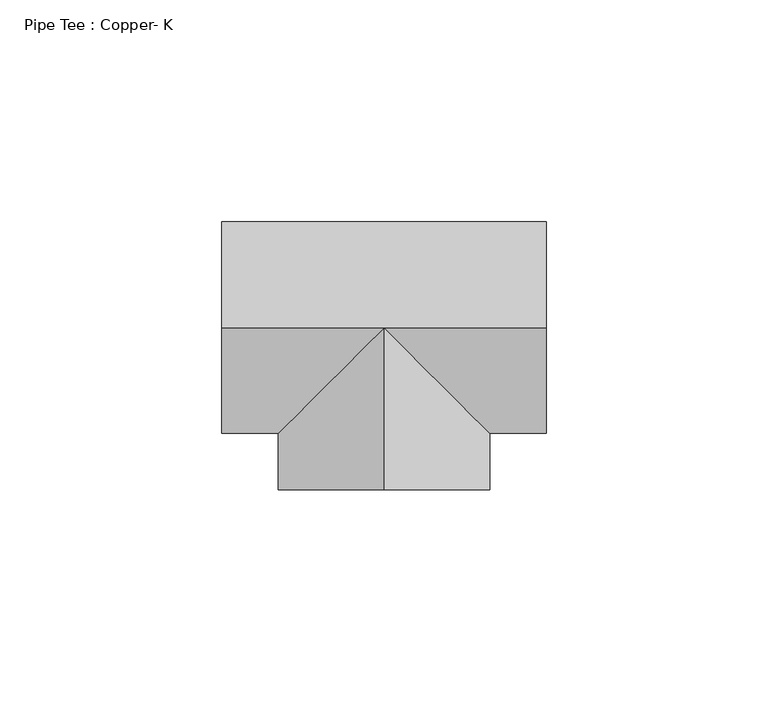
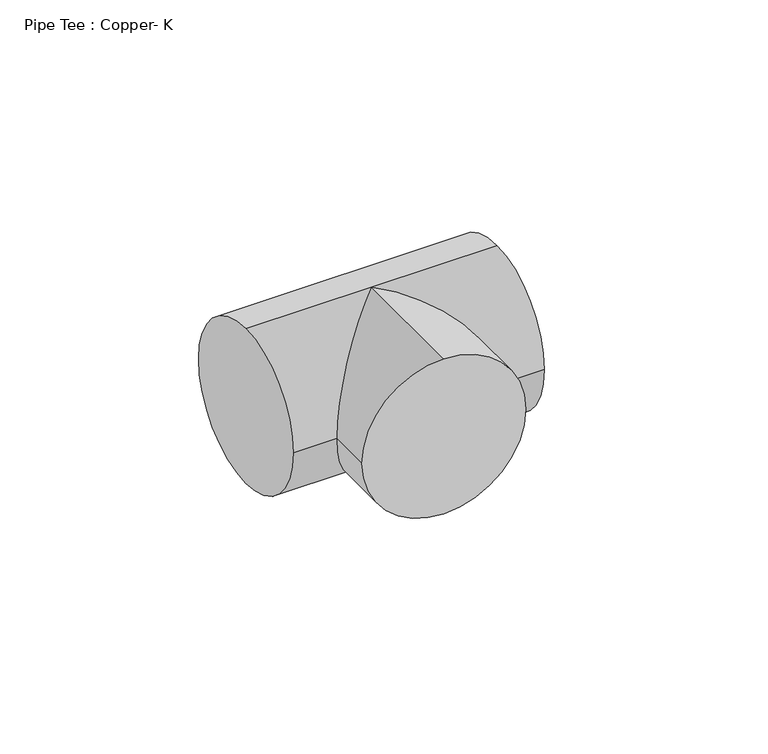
"""IFC4 building model written with IfcOpenShell, lengths in millimetres: pipe fitting geometry, Pipe Tee : Copper- K."""

from ifc_helpers import new_model, si_unit, frame, origin, place, context, project, spatial, circle_curve, ellipse_curve, source, transform, mapped, element, save
from ifc_brep_helpers import plane_surface, cylinder_surface, advanced_brep


def pipe_tee_copper_k_9c2f566c(model_context):
    return source(origin(), model_context, "Body", "AdvancedBrep", [
        advanced_brep(
        [(-36.5125, 0.0, 23.8125), (-36.5125, 23.8125, 0.0), (-36.5125, 0.0, -23.8125), (-36.5125, -23.8125, 0.0), (36.5125, 0.0, 23.8125), (36.5125, -23.8125, 0.0), (36.5125, 0.0, -23.8125), (36.5125, 23.8125, 0.0), (0.0, 0.0, 23.8125), (0.0, 0.0, -23.8125), (-23.8124992, -23.8125, 0.0), (23.8125008, -23.8125, 0.0), (1.2e-06, -36.5125, 23.8125), (-23.8124988, -36.5125008, 0.0), (1.2e-06, -36.5125, -23.8125), (23.8125012, -36.5124992, 0.0)],
        [
            (0, 1, circle_curve(frame((-36.5125, 0.0, 0.0), z_axis=(-1.0, 0.0, 0.0), x_axis=(0.0, 1.0, 0.0)), 23.8125)),
            (1, 2, circle_curve(frame((-36.5125, 0.0, 0.0), z_axis=(-1.0, 0.0, 0.0), x_axis=(0.0, 1.0, 0.0)), 23.8125)),
            (2, 3, circle_curve(frame((-36.5125, 0.0, 0.0), z_axis=(-1.0, 0.0, 0.0), x_axis=(0.0, 1.0, 0.0)), 23.8125)),
            (3, 0, circle_curve(frame((-36.5125, 0.0, 0.0), z_axis=(-1.0, 0.0, 0.0), x_axis=(0.0, 1.0, 0.0)), 23.8125)),
            (4, 5, circle_curve(frame((36.5125, 0.0, 0.0), z_axis=(1.0, 0.0, 0.0), x_axis=(0.0, 1.0, 0.0)), 23.8125)),
            (5, 6, circle_curve(frame((36.5125, 0.0, 0.0), z_axis=(1.0, 0.0, 0.0), x_axis=(0.0, 1.0, 0.0)), 23.8125)),
            (6, 7, circle_curve(frame((36.5125, 0.0, 0.0), z_axis=(1.0, 0.0, 0.0), x_axis=(0.0, 1.0, 0.0)), 23.8125)),
            (7, 4, circle_curve(frame((36.5125, 0.0, 0.0), z_axis=(1.0, 0.0, 0.0), x_axis=(0.0, 1.0, 0.0)), 23.8125)),
            (0, 8),
            (8, 4),
            (7, 1),
            (6, 9),
            (9, 2),
            (9, 10, ellipse_curve(frame((0.0, 0.0, 0.0), z_axis=(-0.707106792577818, 0.7071067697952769, 0.0), x_axis=(-0.7071067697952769, -0.707106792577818, 0.0)), 33.6759599, 23.8125)),
            (10, 3),
            (5, 11),
            (11, 9, ellipse_curve(frame((0.0, 0.0, 0.0), z_axis=(0.7071067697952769, 0.707106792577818, 0.0), x_axis=(-0.707106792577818, 0.7071067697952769, 0.0)), 33.675961, 23.8125)),
            (10, 8, ellipse_curve(frame((0.0, 0.0, 0.0), z_axis=(-0.707106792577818, 0.7071067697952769, 0.0), x_axis=(-0.7071067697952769, -0.707106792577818, 0.0)), 33.6759599, 23.8125)),
            (8, 11, ellipse_curve(frame((0.0, 0.0, 0.0), z_axis=(0.7071067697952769, 0.707106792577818, 0.0), x_axis=(-0.707106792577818, 0.7071067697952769, 0.0)), 33.675961, 23.8125)),
            (12, 13, circle_curve(frame((1.2e-06, -36.5125, 0.0), z_axis=(3.221937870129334e-08, -0.9999999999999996, 0.0), x_axis=(0.9999999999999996, 3.221937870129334e-08, 0.0)), 23.8125)),
            (13, 14, circle_curve(frame((1.2e-06, -36.5125, 0.0), z_axis=(3.221937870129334e-08, -0.9999999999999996, 0.0), x_axis=(0.9999999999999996, 3.221937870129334e-08, 0.0)), 23.8125)),
            (14, 15, circle_curve(frame((1.2e-06, -36.5125, 0.0), z_axis=(3.221937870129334e-08, -0.9999999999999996, 0.0), x_axis=(0.9999999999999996, 3.221937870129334e-08, 0.0)), 23.8125)),
            (15, 12, circle_curve(frame((1.2e-06, -36.5125, 0.0), z_axis=(3.221937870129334e-08, -0.9999999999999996, 0.0), x_axis=(0.9999999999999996, 3.221937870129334e-08, 0.0)), 23.8125)),
            (15, 11),
            (8, 12),
            (14, 9),
            (13, 10),
        ],
        [
            plane_surface(frame((-36.5125, 0.0, 0.0), z_axis=(-1.0, 0.0, 0.0), x_axis=(0.0, 0.0, 1.0))),
            plane_surface(frame((36.5125, 0.0, 0.0), z_axis=(1.0, 0.0, 0.0), x_axis=(0.0, 0.0, 1.0))),
            cylinder_surface(frame((-36.5125, 0.0, 0.0), z_axis=(-1.0, 0.0, 0.0), x_axis=(0.0, 1.0, 0.0)), 23.8125),
            plane_surface(frame((1.2e-06, -36.5125, 0.0), z_axis=(3.221937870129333e-08, -0.9999999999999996, 0.0), x_axis=(0.0, 0.0, 1.0))),
            cylinder_surface(frame((0.0, 0.0, 0.0), z_axis=(-3.221937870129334e-08, 0.9999999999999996, 0.0), x_axis=(0.9999999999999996, 3.221937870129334e-08, 0.0)), 23.8125),
        ],
        [
            (0, [[1, 2, 3, 4]]),
            (1, [[5, 6, 7, 8]]),
            (2, [[-1, 9, 10, -8, 11]]),
            (2, [[-2, -11, -7, 12, 13]]),
            (2, [[-3, -13, 14, 15]]),
            (2, [[-6, 16, 17, -12]]),
            (2, [[-4, -15, 18, -9]]),
            (2, [[-5, -10, 19, -16]]),
            (3, [[20, 21, 22, 23]]),
            (4, [[-23, 24, -19, 25]]),
            (4, [[-22, 26, -17, -24]]),
            (4, [[-21, 27, -14, -26]]),
            (4, [[-20, -25, -18, -27]]),
        ],
    ),
        advanced_brep(
        [(-36.5125, 0.0, 23.8125), (-36.5125, 23.8125, 0.0), (-36.5125, 0.0, -23.8125), (-36.5125, -23.8125, 0.0), (36.5125, 0.0, 23.8125), (36.5125, -23.8125, 0.0), (36.5125, 0.0, -23.8125), (36.5125, 23.8125, 0.0), (0.0, 0.0, 23.8125), (0.0, 0.0, -23.8125), (-23.8124992, -23.8125, 0.0), (23.8125008, -23.8125, 0.0), (1.2e-06, -36.5125, 23.8125), (-23.8124988, -36.5125008, 0.0), (1.2e-06, -36.5125, -23.8125), (23.8125012, -36.5124992, 0.0)],
        [
            (0, 1, circle_curve(frame((-36.5125, 0.0, 0.0), z_axis=(-1.0, 0.0, 0.0), x_axis=(0.0, 1.0, 0.0)), 23.8125)),
            (1, 2, circle_curve(frame((-36.5125, 0.0, 0.0), z_axis=(-1.0, 0.0, 0.0), x_axis=(0.0, 1.0, 0.0)), 23.8125)),
            (2, 3, circle_curve(frame((-36.5125, 0.0, 0.0), z_axis=(-1.0, 0.0, 0.0), x_axis=(0.0, 1.0, 0.0)), 23.8125)),
            (3, 0, circle_curve(frame((-36.5125, 0.0, 0.0), z_axis=(-1.0, 0.0, 0.0), x_axis=(0.0, 1.0, 0.0)), 23.8125)),
            (4, 5, circle_curve(frame((36.5125, 0.0, 0.0), z_axis=(1.0, 0.0, 0.0), x_axis=(0.0, 1.0, 0.0)), 23.8125)),
            (5, 6, circle_curve(frame((36.5125, 0.0, 0.0), z_axis=(1.0, 0.0, 0.0), x_axis=(0.0, 1.0, 0.0)), 23.8125)),
            (6, 7, circle_curve(frame((36.5125, 0.0, 0.0), z_axis=(1.0, 0.0, 0.0), x_axis=(0.0, 1.0, 0.0)), 23.8125)),
            (7, 4, circle_curve(frame((36.5125, 0.0, 0.0), z_axis=(1.0, 0.0, 0.0), x_axis=(0.0, 1.0, 0.0)), 23.8125)),
            (0, 8),
            (8, 4),
            (7, 1),
            (6, 9),
            (9, 2),
            (9, 10, ellipse_curve(frame((0.0, 0.0, 0.0), z_axis=(-0.707106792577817, 0.707106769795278, 0.0), x_axis=(-0.7071067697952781, -0.707106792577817, 0.0)), 33.6759599, 23.8125)),
            (10, 3),
            (5, 11),
            (11, 9, ellipse_curve(frame((0.0, 0.0, 0.0), z_axis=(0.707106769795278, 0.707106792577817, 0.0), x_axis=(-0.7071067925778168, 0.707106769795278, 0.0)), 33.675961, 23.8125)),
            (10, 8, ellipse_curve(frame((0.0, 0.0, 0.0), z_axis=(-0.707106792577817, 0.707106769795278, 0.0), x_axis=(-0.7071067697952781, -0.707106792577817, 0.0)), 33.6759599, 23.8125)),
            (8, 11, ellipse_curve(frame((0.0, 0.0, 0.0), z_axis=(0.707106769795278, 0.707106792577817, 0.0), x_axis=(-0.7071067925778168, 0.707106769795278, 0.0)), 33.675961, 23.8125)),
            (12, 13, circle_curve(frame((1.2e-06, -36.5125, 0.0), z_axis=(3.221937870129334e-08, -0.9999999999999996, 0.0), x_axis=(0.9999999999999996, 3.221937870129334e-08, 0.0)), 23.8125)),
            (13, 14, circle_curve(frame((1.2e-06, -36.5125, 0.0), z_axis=(3.221937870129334e-08, -0.9999999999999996, 0.0), x_axis=(0.9999999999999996, 3.221937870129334e-08, 0.0)), 23.8125)),
            (14, 15, circle_curve(frame((1.2e-06, -36.5125, 0.0), z_axis=(3.221937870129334e-08, -0.9999999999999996, 0.0), x_axis=(0.9999999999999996, 3.221937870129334e-08, 0.0)), 23.8125)),
            (15, 12, circle_curve(frame((1.2e-06, -36.5125, 0.0), z_axis=(3.221937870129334e-08, -0.9999999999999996, 0.0), x_axis=(0.9999999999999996, 3.221937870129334e-08, 0.0)), 23.8125)),
            (15, 11),
            (8, 12),
            (14, 9),
            (13, 10),
        ],
        [
            plane_surface(frame((-36.5125, 0.0, 0.0), z_axis=(-1.0, 0.0, 0.0), x_axis=(0.0, 0.0, 1.0))),
            plane_surface(frame((36.5125, 0.0, 0.0), z_axis=(1.0, 0.0, 0.0), x_axis=(0.0, 0.0, 1.0))),
            cylinder_surface(frame((-36.5125, 0.0, 0.0), z_axis=(-1.0, 0.0, 0.0), x_axis=(0.0, 1.0, 0.0)), 23.8125),
            plane_surface(frame((1.2e-06, -36.5125, 0.0), z_axis=(3.221937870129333e-08, -0.9999999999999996, 0.0), x_axis=(0.0, 0.0, 1.0))),
            cylinder_surface(frame((0.0, 0.0, 0.0), z_axis=(-3.221937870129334e-08, 0.9999999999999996, 0.0), x_axis=(0.9999999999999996, 3.221937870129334e-08, 0.0)), 23.8125),
        ],
        [
            (0, [[1, 2, 3, 4]]),
            (1, [[5, 6, 7, 8]]),
            (2, [[-1, 9, 10, -8, 11]]),
            (2, [[-2, -11, -7, 12, 13]]),
            (2, [[-3, -13, 14, 15]]),
            (2, [[-6, 16, 17, -12]]),
            (2, [[-4, -15, 18, -9]]),
            (2, [[-5, -10, 19, -16]]),
            (3, [[20, 21, 22, 23]]),
            (4, [[-23, 24, -19, 25]]),
            (4, [[-22, 26, -17, -24]]),
            (4, [[-21, 27, -14, -26]]),
            (4, [[-20, -25, -18, -27]]),
        ],
    ),
    ])


if __name__ == "__main__":
    model = new_model("IFC4")
    model_context = context("Model", 3, world=origin())
    ifc_project = project(units=[si_unit("LENGTHUNIT", "METRE", prefix="MILLI")], contexts=[model_context])
    site = spatial("IfcSite", under=ifc_project)
    building = spatial("IfcBuilding", under=site)
    placement = place(None, origin())
    pipe_tee_copper_k_shape = pipe_tee_copper_k_9c2f566c(model_context)
    element("IfcPipeFitting", 1, ObjectType="Pipe Tee : Copper- K", at=placement, inside=building, context=model_context, shape_type="MappedRepresentation", body=[
        mapped(pipe_tee_copper_k_shape, transform((0.0, 0.0, 0.0), x_axis=(1.0, 0.0, 0.0), y_axis=(0.0, 1.0, 0.0), z_axis=(0.0, 0.0, 1.0))),
    ])
    save(model, "model.ifc")
